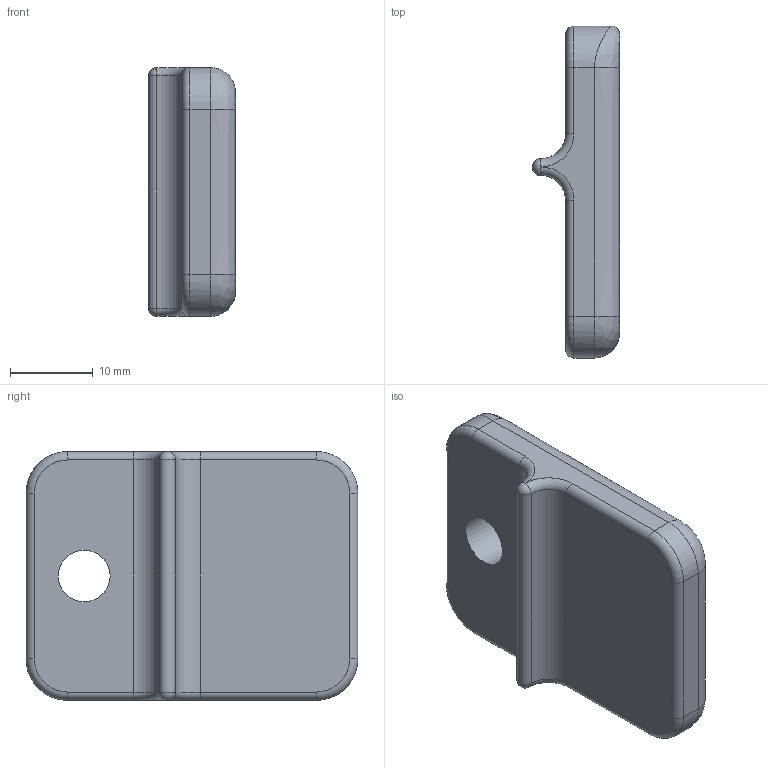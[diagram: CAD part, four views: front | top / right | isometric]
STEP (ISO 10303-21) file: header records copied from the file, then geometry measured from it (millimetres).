
FILE_DESCRIPTION (( 'STEP AP214' ), '1' );
FILE_NAME ('L19156.step', '2024-12-03T16:22:52', ( '' ), ( '' ), 'SwSTEP 2.0', 'SolidWorks 2023', '' );
FILE_SCHEMA (( 'AUTOMOTIVE_DESIGN' ));
Length unit declared in the file: millimetre
Products named in the file (1): L19156
Bounding box: 10.5 x 40 x 30 mm (x, y, z)
Volume: 7576.2 mm3; surface area: 3228.7 mm2
Topology: 1 solids, 1 shells, 39 faces, 89 edges, 48 vertices
Faces by surface type: cylinder 14, torus 8, bspline 8, plane 7, sphere 2
Full cylindrical faces by diameter (mm): 6.25 x1
Entity records: 1428 total; most frequent: CARTESIAN_POINT 619, ORIENTED_EDGE 168, DIRECTION 160, EDGE_CURVE 84, AXIS2_PLACEMENT_3D 68, VERTEX_POINT 48, EDGE_LOOP 42, FACE_OUTER_BOUND 40
